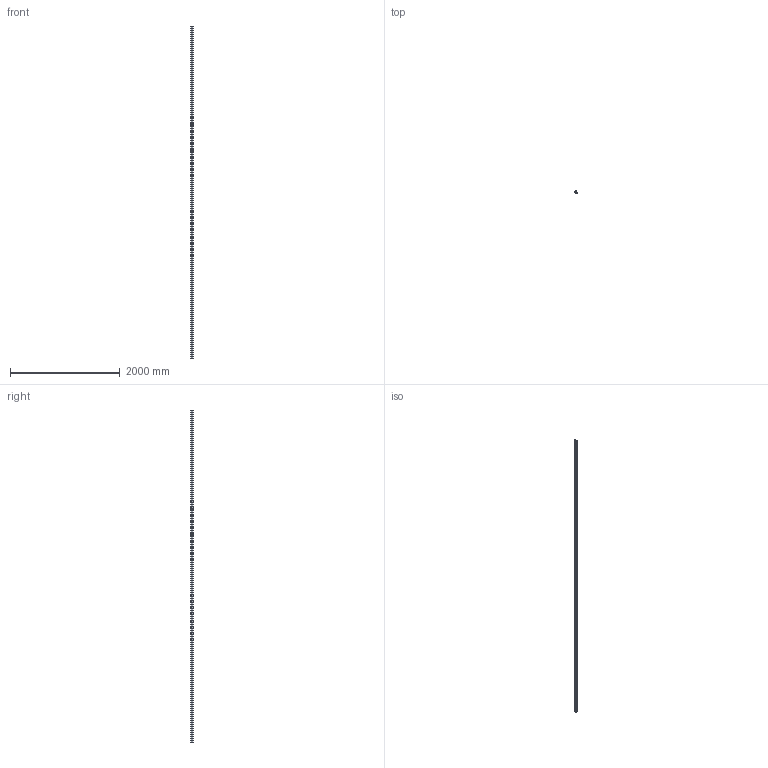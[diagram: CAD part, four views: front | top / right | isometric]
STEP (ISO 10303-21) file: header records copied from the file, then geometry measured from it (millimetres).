
FILE_DESCRIPTION (( 'STEP AP203' ), '1' );
FILE_NAME ('20101080_Profil 30 R30-R60 - 45° Nut 8.step', '2023-11-24T08:30:25', ( '' ), ( '' ), 'SwSTEP 2.0', 'SolidWorks 2021', '' );
FILE_SCHEMA (( 'CONFIG_CONTROL_DESIGN' ));
Length unit declared in the file: millimetre
Products named in the file (1): 20101080_Profil 30 R30-R60 - 45° Nut 8
Bounding box: 37.92 x 41.51 x 6060 mm (x, y, z)
Volume: 2499402.7 mm3; surface area: 2280949.9 mm2
Topology: 1 solids, 1 shells, 171 faces, 507 edges, 338 vertices
Faces by surface type: cylinder 107, plane 64
Entity records: 5908 total; most frequent: DIRECTION 1065, CARTESIAN_POINT 1017, ORIENTED_EDGE 1014, EDGE_CURVE 507, AXIS2_PLACEMENT_3D 386, VERTEX_POINT 338, VECTOR 293, LINE 293
